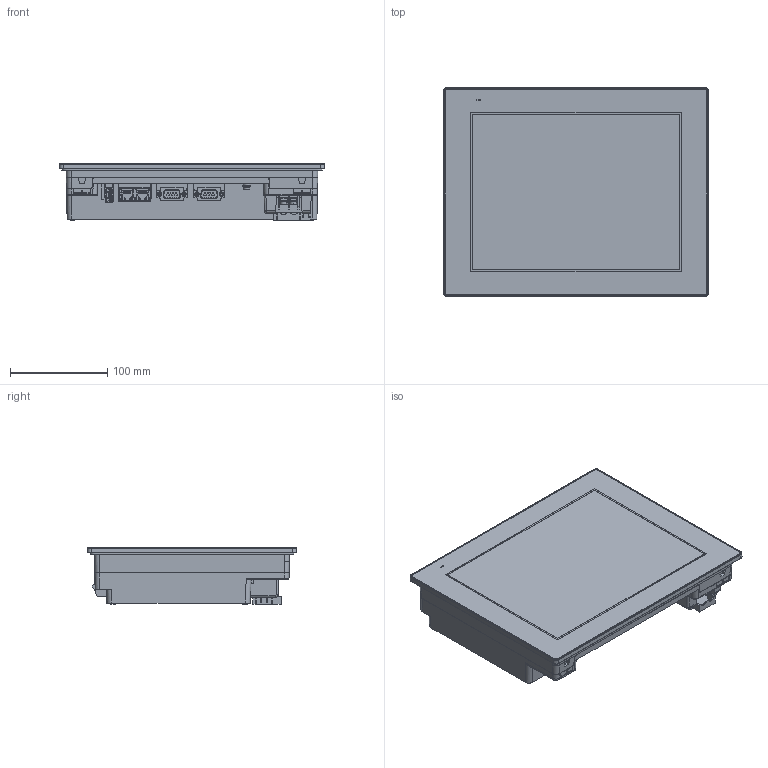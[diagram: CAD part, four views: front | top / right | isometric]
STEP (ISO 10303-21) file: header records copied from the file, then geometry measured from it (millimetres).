
FILE_DESCRIPTION (( 'STEP AP203' ), '1' );
FILE_NAME ('PFXGP6500TAA_3D-simpl.STEP', '2025-02-06T13:53:22', ( '' ), ( '' ), 'SwSTEP 2.0', 'SolidWorks 2017', '' );
FILE_SCHEMA (( 'CONFIG_CONTROL_DESIGN' ));
Length unit declared in the file: millimetre
Products named in the file (5): PFXGP6500TAA_3D-simpl; PFXGP6500TAA_3D-simpl_3; PFXGP6500TAA_3D-simpl_2; PFXGP6500TAA_3D-simpl_4
Assembly tree (4 placements, depth 2):
  PFXGP6500TAA_3D-simpl
    PFXGP6500TAA_3D-simpl_4
    PFXGP6500TAA_3D-simpl
    PFXGP6500TAA_3D-simpl_3
    PFXGP6500TAA_3D-simpl_2
Bounding box: 272.46 x 214.46 x 58.51 mm (x, y, z)
Volume: 2575612.1 mm3; surface area: 203579.8 mm2
Topology: 4 solids, 12 shells, 2388 faces, 6603 edges, 4312 vertices
Faces by surface type: plane 1602, cylinder 490, bspline 194, cone 92, torus 10
Entity records: 91238 total; most frequent: CARTESIAN_POINT 33615, ORIENTED_EDGE 13132, DIRECTION 9727, EDGE_CURVE 6566, LINE 4711, VECTOR 4711, VERTEX_POINT 4312, EDGE_LOOP 2542
